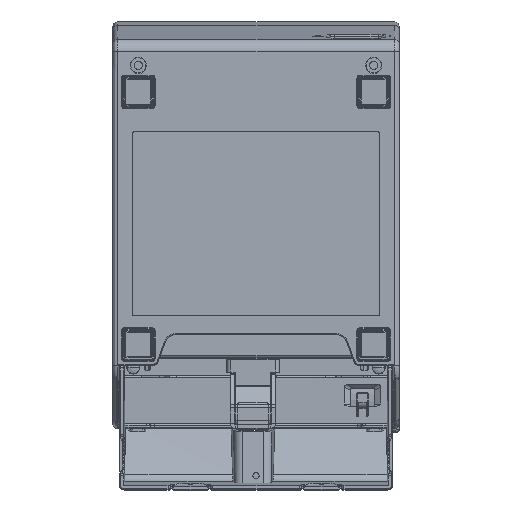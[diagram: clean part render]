
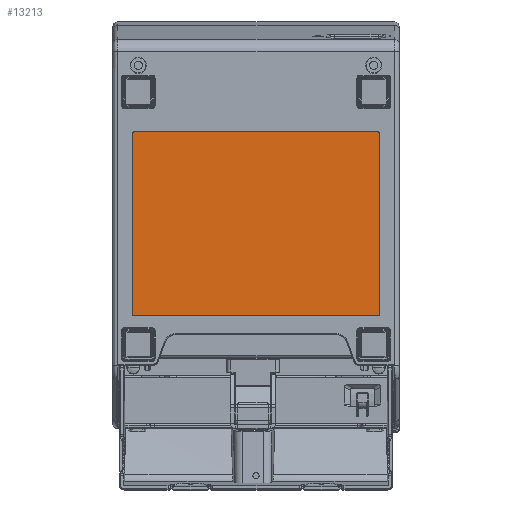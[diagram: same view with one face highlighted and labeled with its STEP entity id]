
A CAD part, front view. The second image highlights one B-rep face of the part: STEP entity #13213.
In plain terms, the highlighted planar face has unit normal (0, -1, 0).
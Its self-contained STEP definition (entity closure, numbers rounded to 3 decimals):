
#1783=CARTESIAN_POINT('',(-59.5,0.4,-56.));
#1784=DIRECTION('',(0.,1.,0.));
#1785=DIRECTION('',(-1.,0.,0.));
#1786=AXIS2_PLACEMENT_3D('',#1783,#1784,#1785);
#1788=DIRECTION('',(1.,0.,0.));
#1789=VECTOR('',#1788,119.);
#1790=CARTESIAN_POINT('',(-59.5,0.4,-55.));
#1791=LINE('',#1790,#1789);
#1792=CARTESIAN_POINT('',(59.5,0.4,-56.));
#1793=DIRECTION('',(0.,1.,0.));
#1794=DIRECTION('',(0.,0.,1.));
#1795=AXIS2_PLACEMENT_3D('',#1792,#1793,#1794);
#1797=DIRECTION('',(0.,0.,-1.));
#1798=VECTOR('',#1797,88.);
#1799=CARTESIAN_POINT('',(60.5,0.4,-56.));
#1800=LINE('',#1799,#1798);
#1801=CARTESIAN_POINT('',(59.5,0.4,-144.));
#1802=DIRECTION('',(0.,1.,0.));
#1803=DIRECTION('',(1.,0.,0.));
#1804=AXIS2_PLACEMENT_3D('',#1801,#1802,#1803);
#1806=DIRECTION('',(-1.,0.,0.));
#1807=VECTOR('',#1806,119.);
#1808=CARTESIAN_POINT('',(59.5,0.4,-145.));
#1809=LINE('',#1808,#1807);
#1810=CARTESIAN_POINT('',(-59.5,0.4,-144.));
#1811=DIRECTION('',(0.,1.,0.));
#1812=DIRECTION('',(0.,0.,-1.));
#1813=AXIS2_PLACEMENT_3D('',#1810,#1811,#1812);
#1815=DIRECTION('',(0.,0.,1.));
#1816=VECTOR('',#1815,88.);
#1817=CARTESIAN_POINT('',(-60.5,0.4,-144.));
#1818=LINE('',#1817,#1816);
#11482=CARTESIAN_POINT('',(-59.5,0.4,-55.));
#11483=CARTESIAN_POINT('',(-60.5,0.4,-56.));
#11484=VERTEX_POINT('',#11482);
#11485=VERTEX_POINT('',#11483);
#11486=CARTESIAN_POINT('',(60.5,0.4,-56.));
#11487=CARTESIAN_POINT('',(59.5,0.4,-55.));
#11488=VERTEX_POINT('',#11486);
#11489=VERTEX_POINT('',#11487);
#11490=CARTESIAN_POINT('',(59.5,0.4,-145.));
#11491=CARTESIAN_POINT('',(60.5,0.4,-144.));
#11492=VERTEX_POINT('',#11490);
#11493=VERTEX_POINT('',#11491);
#11494=CARTESIAN_POINT('',(-60.5,0.4,-144.));
#11495=CARTESIAN_POINT('',(-59.5,0.4,-145.));
#11496=VERTEX_POINT('',#11494);
#11497=VERTEX_POINT('',#11495);
#13190=CARTESIAN_POINT('',(0.,0.4,0.));
#13191=DIRECTION('',(0.,-1.,0.));
#13192=DIRECTION('',(1.,0.,0.));
#13193=AXIS2_PLACEMENT_3D('',#13190,#13191,#13192);
#13194=PLANE('',#13193);
#13196=ORIENTED_EDGE('',*,*,#13195,.T.);
#13198=ORIENTED_EDGE('',*,*,#13197,.T.);
#13200=ORIENTED_EDGE('',*,*,#13199,.T.);
#13202=ORIENTED_EDGE('',*,*,#13201,.T.);
#13204=ORIENTED_EDGE('',*,*,#13203,.T.);
#13206=ORIENTED_EDGE('',*,*,#13205,.T.);
#13208=ORIENTED_EDGE('',*,*,#13207,.T.);
#13210=ORIENTED_EDGE('',*,*,#13209,.T.);
#13211=EDGE_LOOP('',(#13196,#13198,#13200,#13202,#13204,#13206,#13208,#13210));
#13212=FACE_OUTER_BOUND('',#13211,.F.);
#1787=CIRCLE('',#1786,1.);
#1796=CIRCLE('',#1795,1.);
#1805=CIRCLE('',#1804,1.);
#1814=CIRCLE('',#1813,1.);
#13195=EDGE_CURVE('',#11485,#11484,#1787,.T.);
#13197=EDGE_CURVE('',#11484,#11489,#1791,.T.);
#13199=EDGE_CURVE('',#11489,#11488,#1796,.T.);
#13201=EDGE_CURVE('',#11488,#11493,#1800,.T.);
#13203=EDGE_CURVE('',#11493,#11492,#1805,.T.);
#13205=EDGE_CURVE('',#11492,#11497,#1809,.T.);
#13207=EDGE_CURVE('',#11497,#11496,#1814,.T.);
#13209=EDGE_CURVE('',#11496,#11485,#1818,.T.);
#13213=ADVANCED_FACE('',(#13212),#13194,.T.);
